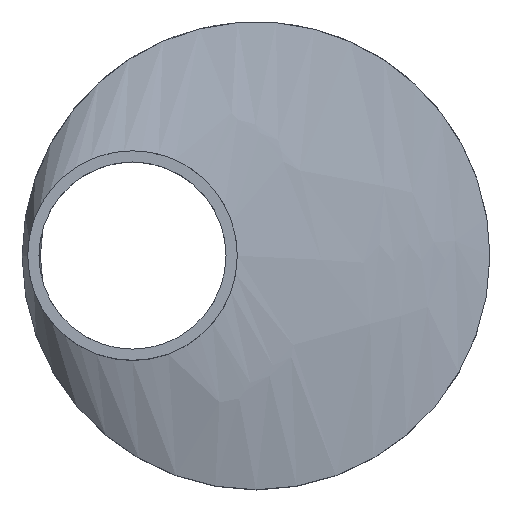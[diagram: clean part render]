
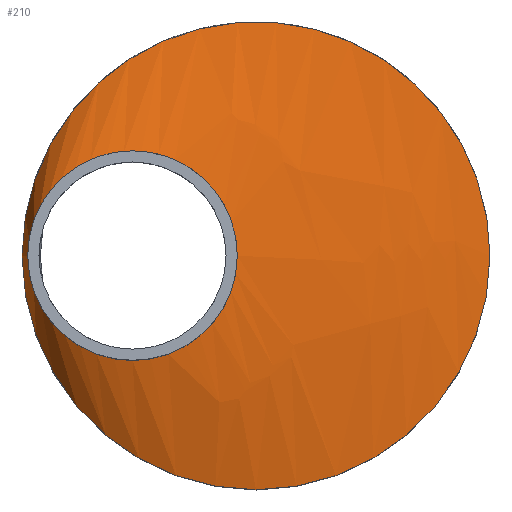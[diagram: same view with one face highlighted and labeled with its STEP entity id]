
A CAD part, top view. The second image highlights one B-rep face of the part: STEP entity #210.
In plain terms, the highlighted free-form (B-spline) face has degree [1, 2] with [2, 9] control points.
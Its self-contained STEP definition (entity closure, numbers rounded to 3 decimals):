
#15=B_SPLINE_CURVE_WITH_KNOTS($,1,(#401,#402),.UNSPECIFIED.,.F.,.F.,(2,
2),(-0.609,0.),.UNSPECIFIED.);
#17=(
BOUNDED_SURFACE()
B_SPLINE_SURFACE(1,2,((#379,#380,#381,#382,#383,#384,#385,#386,#387),(#388,
#389,#390,#391,#392,#393,#394,#395,#396)),.UNSPECIFIED.,.F.,.T.,.F.)
B_SPLINE_SURFACE_WITH_KNOTS((2,2),(3,2,2,2,3),(-4.054,0.831),
(-3.142,-1.571,0.,1.571,3.142),
 .UNSPECIFIED.)
GEOMETRIC_REPRESENTATION_ITEM()
RATIONAL_B_SPLINE_SURFACE(((1.,0.707,1.,0.707,1.,
0.707,1.,0.707,1.),(1.,0.707,1.,0.707,
1.,0.707,1.,0.707,1.)))
REPRESENTATION_ITEM($)
SURFACE()
);
#47=FACE_OUTER_BOUND($,#67,.T.);
#67=EDGE_LOOP($,(#167,#168,#169,#170,#171,#172));
#83=CIRCLE($,#231,62.5);
#84=CIRCLE($,#232,62.5);
#93=CIRCLE($,#243,28.);
#94=CIRCLE($,#244,28.);
#103=VERTEX_POINT($,#337);
#104=VERTEX_POINT($,#338);
#113=VERTEX_POINT($,#397);
#114=VERTEX_POINT($,#398);
#123=EDGE_CURVE($,#103,#104,#83,.T.);
#124=EDGE_CURVE($,#104,#103,#84,.T.);
#134=EDGE_CURVE($,#113,#114,#93,.T.);
#135=EDGE_CURVE($,#114,#113,#94,.T.);
#136=EDGE_CURVE($,#114,#104,#15,.T.);
#167=ORIENTED_EDGE($,*,*,#134,.F.);
#168=ORIENTED_EDGE($,*,*,#135,.F.);
#169=ORIENTED_EDGE($,*,*,#136,.T.);
#170=ORIENTED_EDGE($,*,*,#123,.F.);
#171=ORIENTED_EDGE($,*,*,#124,.F.);
#172=ORIENTED_EDGE($,*,*,#136,.F.);
#210=ADVANCED_FACE($,(#47),#17,.F.);
#231=AXIS2_PLACEMENT_3D($,#339,#278,#279);
#232=AXIS2_PLACEMENT_3D($,#340,#280,#281);
#243=AXIS2_PLACEMENT_3D($,#399,#302,#303);
#244=AXIS2_PLACEMENT_3D($,#400,#304,#305);
#278=DIRECTION('center_axis',(0.,0.,-1.));
#279=DIRECTION('ref_axis',(-1.,0.,0.));
#280=DIRECTION('center_axis',(0.,0.,-1.));
#281=DIRECTION('ref_axis',(-1.,0.,0.));
#302=DIRECTION('center_axis',(0.,0.,1.));
#303=DIRECTION('ref_axis',(-1.,0.,0.));
#304=DIRECTION('center_axis',(0.,0.,1.));
#305=DIRECTION('ref_axis',(-1.,0.,0.));
#337=CARTESIAN_POINT('',(62.5,0.,37.));
#338=CARTESIAN_POINT('',(-49.132,38.63,37.));
#339=CARTESIAN_POINT('Origin',(0.,0.,37.));
#340=CARTESIAN_POINT('Origin',(0.,0.,37.));
#379=CARTESIAN_POINT('Ctrl Pts',(-9.988,180.613,-16.268));
#380=CARTESIAN_POINT('Ctrl Pts',(-82.476,180.613,-69.537));
#381=CARTESIAN_POINT('Ctrl Pts',(-82.476,0.,
-69.537));
#382=CARTESIAN_POINT('Ctrl Pts',(-82.476,-180.613,-69.537));
#383=CARTESIAN_POINT('Ctrl Pts',(-9.988,-180.613,-16.268));
#384=CARTESIAN_POINT('Ctrl Pts',(62.5,-180.613,37.));
#385=CARTESIAN_POINT('Ctrl Pts',(62.5,0.,
37.));
#386=CARTESIAN_POINT('Ctrl Pts',(62.5,180.613,37.));
#387=CARTESIAN_POINT('Ctrl Pts',(-9.988,180.613,-16.268));
#388=CARTESIAN_POINT('Ctrl Pts',(-57.153,9.538,47.914));
#389=CARTESIAN_POINT('Ctrl Pts',(-60.981,9.538,45.101));
#390=CARTESIAN_POINT('Ctrl Pts',(-60.981,0.,45.101));
#391=CARTESIAN_POINT('Ctrl Pts',(-60.981,-9.538,45.101));
#392=CARTESIAN_POINT('Ctrl Pts',(-57.153,-9.538,47.914));
#393=CARTESIAN_POINT('Ctrl Pts',(-53.325,-9.538,50.727));
#394=CARTESIAN_POINT('Ctrl Pts',(-53.325,0.,50.727));
#395=CARTESIAN_POINT('Ctrl Pts',(-53.325,9.538,50.727));
#396=CARTESIAN_POINT('Ctrl Pts',(-57.153,9.538,47.914));
#397=CARTESIAN_POINT('',(-5.,0.,45.));
#398=CARTESIAN_POINT('',(-55.011,17.306,45.));
#399=CARTESIAN_POINT('Origin',(-33.,0.,45.));
#400=CARTESIAN_POINT('Origin',(-33.,0.,45.));
#401=CARTESIAN_POINT('Ctrl Pts',(-55.011,17.306,45.));
#402=CARTESIAN_POINT('Ctrl Pts',(-49.132,38.63,37.));
